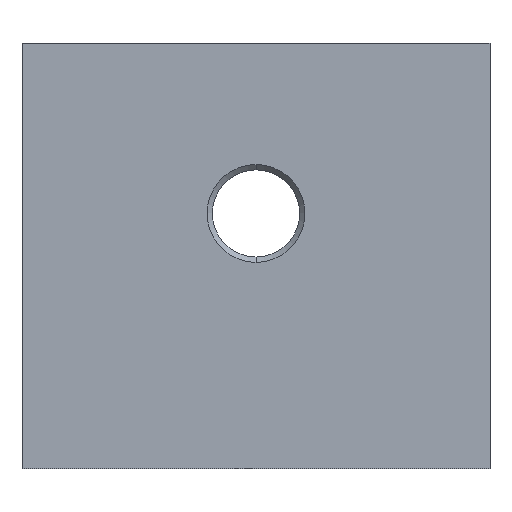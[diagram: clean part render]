
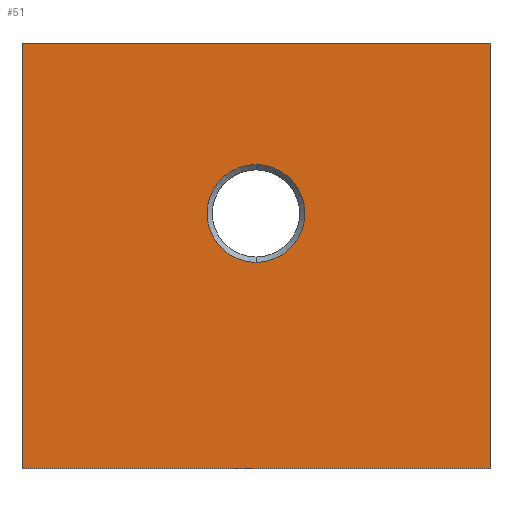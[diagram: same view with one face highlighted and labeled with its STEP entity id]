
A CAD part, front view. The second image highlights one B-rep face of the part: STEP entity #51.
In plain terms, the highlighted planar face has unit normal (0, -1, 0).
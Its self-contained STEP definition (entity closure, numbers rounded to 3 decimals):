
#18 = VERTEX_POINT ( 'NONE', #40 ) ;
#26 = ORIENTED_EDGE ( 'NONE', *, *, #807, .F. ) ;
#40 = CARTESIAN_POINT ( 'NONE',  ( -22., 0., -20. ) ) ;
#50 = CARTESIAN_POINT ( 'NONE',  ( -22., 0., -20. ) ) ;
#51 = ADVANCED_FACE ( 'NONE', ( #459, #121 ), #55, .F. ) ;
#55 = PLANE ( 'NONE',  #112 ) ;
#57 = DIRECTION ( 'NONE',  ( 1., 0., 0. ) ) ;
#106 = AXIS2_PLACEMENT_3D ( 'NONE', #150, #596, #215 ) ;
#112 = AXIS2_PLACEMENT_3D ( 'NONE', #125, #571, #184 ) ;
#121 = FACE_OUTER_BOUND ( 'NONE', #454, .T. ) ;
#125 = CARTESIAN_POINT ( 'NONE',  ( 0., 0., 0. ) ) ;
#150 = CARTESIAN_POINT ( 'NONE',  ( 0., 0., 4. ) ) ;
#159 = VECTOR ( 'NONE', #492, 1000. ) ;
#161 = LINE ( 'NONE', #572, #713 ) ;
#178 = VECTOR ( 'NONE', #651, 1000. ) ;
#184 = DIRECTION ( 'NONE',  ( 0., 0., 1. ) ) ;
#195 = CARTESIAN_POINT ( 'NONE',  ( 22., 0., -20. ) ) ;
#215 = DIRECTION ( 'NONE',  ( 0., 0., 1. ) ) ;
#237 = ORIENTED_EDGE ( 'NONE', *, *, #307, .T. ) ;
#288 = VERTEX_POINT ( 'NONE', #632 ) ;
#298 = CARTESIAN_POINT ( 'NONE',  ( 0., 0., 8.6 ) ) ;
#307 = EDGE_CURVE ( 'NONE', #399, #678, #488, .T. ) ;
#324 = CARTESIAN_POINT ( 'NONE',  ( -22., 0., -20. ) ) ;
#349 = LINE ( 'NONE', #324, #178 ) ;
#356 = DIRECTION ( 'NONE',  ( 0., 1., 0. ) ) ;
#364 = VECTOR ( 'NONE', #649, 1000. ) ;
#386 = LINE ( 'NONE', #50, #159 ) ;
#396 = EDGE_CURVE ( 'NONE', #18, #747, #386, .T. ) ;
#398 = CARTESIAN_POINT ( 'NONE',  ( 22., 0., 20. ) ) ;
#399 = VERTEX_POINT ( 'NONE', #692 ) ;
#454 = EDGE_LOOP ( 'NONE', ( #543, #26, #560, #567 ) ) ;
#459 = FACE_BOUND ( 'NONE', #774, .T. ) ;
#463 = VERTEX_POINT ( 'NONE', #398 ) ;
#488 = CIRCLE ( 'NONE', #106, 4.6 ) ;
#492 = DIRECTION ( 'NONE',  ( 0., 0., 1. ) ) ;
#508 = ORIENTED_EDGE ( 'NONE', *, *, #637, .T. ) ;
#513 = CARTESIAN_POINT ( 'NONE',  ( -22., 0., 20. ) ) ;
#533 = LINE ( 'NONE', #195, #364 ) ;
#543 = ORIENTED_EDGE ( 'NONE', *, *, #731, .F. ) ;
#559 = AXIS2_PLACEMENT_3D ( 'NONE', #750, #356, #806 ) ;
#560 = ORIENTED_EDGE ( 'NONE', *, *, #396, .F. ) ;
#567 = ORIENTED_EDGE ( 'NONE', *, *, #762, .F. ) ;
#571 = DIRECTION ( 'NONE',  ( 0., 1., 0. ) ) ;
#572 = CARTESIAN_POINT ( 'NONE',  ( -22., 0., 20. ) ) ;
#596 = DIRECTION ( 'NONE',  ( 0., 1., 0. ) ) ;
#621 = CIRCLE ( 'NONE', #559, 4.6 ) ;
#632 = CARTESIAN_POINT ( 'NONE',  ( 22., 0., -20. ) ) ;
#637 = EDGE_CURVE ( 'NONE', #678, #399, #621, .T. ) ;
#649 = DIRECTION ( 'NONE',  ( 0., 0., -1. ) ) ;
#651 = DIRECTION ( 'NONE',  ( -1., 0., 0. ) ) ;
#678 = VERTEX_POINT ( 'NONE', #298 ) ;
#692 = CARTESIAN_POINT ( 'NONE',  ( 0., 0., -0.6 ) ) ;
#713 = VECTOR ( 'NONE', #57, 1000. ) ;
#731 = EDGE_CURVE ( 'NONE', #463, #288, #533, .T. ) ;
#747 = VERTEX_POINT ( 'NONE', #513 ) ;
#750 = CARTESIAN_POINT ( 'NONE',  ( 0., 0., 4. ) ) ;
#762 = EDGE_CURVE ( 'NONE', #288, #18, #349, .T. ) ;
#774 = EDGE_LOOP ( 'NONE', ( #237, #508 ) ) ;
#806 = DIRECTION ( 'NONE',  ( 0., 0., 1. ) ) ;
#807 = EDGE_CURVE ( 'NONE', #747, #463, #161, .T. ) ;
